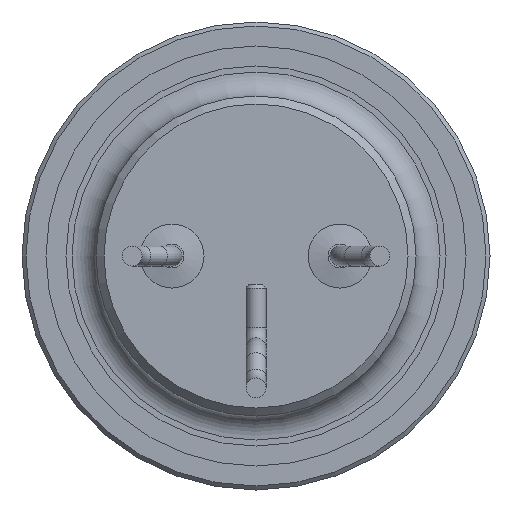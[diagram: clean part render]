
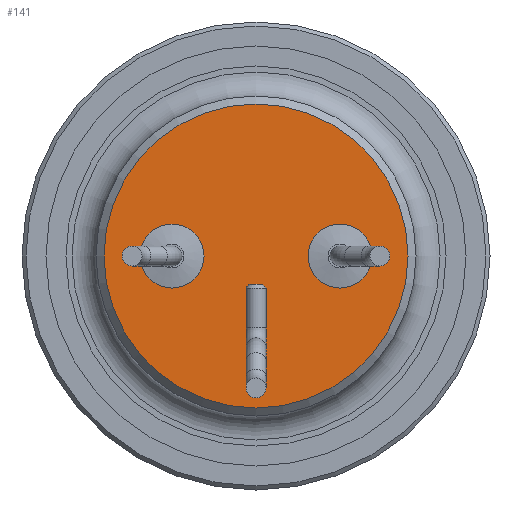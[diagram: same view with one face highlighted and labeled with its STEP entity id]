
A CAD part, front view. The second image highlights one B-rep face of the part: STEP entity #141.
In plain terms, the highlighted planar face has unit normal (0, -1, 0).
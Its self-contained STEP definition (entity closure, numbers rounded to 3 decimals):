
#28 = ORIENTED_EDGE ( 'NONE', *, *, #882, .F. ) ;
#30 = VERTEX_POINT ( 'NONE', #137 ) ;
#32 = CIRCLE ( 'NONE', #1000, 0.8 ) ;
#44 = CARTESIAN_POINT ( 'NONE',  ( -3.8, 0., 0. ) ) ;
#108 = ORIENTED_EDGE ( 'NONE', *, *, #311, .T. ) ;
#110 = CIRCLE ( 'NONE', #473, 3.8 ) ;
#137 = CARTESIAN_POINT ( 'NONE',  ( 2.9, 0., 0. ) ) ;
#141 = ADVANCED_FACE ( 'NONE', ( #1024, #731, #608 ), #188, .F. ) ;
#188 = PLANE ( 'NONE',  #576 ) ;
#240 = DIRECTION ( 'NONE',  ( 0., -1., 0. ) ) ;
#254 = CIRCLE ( 'NONE', #880, 0.8 ) ;
#266 = EDGE_LOOP ( 'NONE', ( #910 ) ) ;
#267 = VERTEX_POINT ( 'NONE', #44 ) ;
#311 = EDGE_CURVE ( 'NONE', #267, #267, #110, .T. ) ;
#343 = EDGE_LOOP ( 'NONE', ( #108 ) ) ;
#418 = DIRECTION ( 'NONE',  ( 0., -1., 0. ) ) ;
#440 = DIRECTION ( 'NONE',  ( 0., -1., 0. ) ) ;
#473 = AXIS2_PLACEMENT_3D ( 'NONE', #1002, #440, #1089 ) ;
#576 = AXIS2_PLACEMENT_3D ( 'NONE', #652, #748, #844 ) ;
#608 = FACE_OUTER_BOUND ( 'NONE', #343, .T. ) ;
#627 = EDGE_LOOP ( 'NONE', ( #28 ) ) ;
#652 = CARTESIAN_POINT ( 'NONE',  ( 4., 0., 0. ) ) ;
#731 = FACE_BOUND ( 'NONE', #627, .T. ) ;
#748 = DIRECTION ( 'NONE',  ( 0., 1., 0. ) ) ;
#790 = CARTESIAN_POINT ( 'NONE',  ( -1.3, 0., 0. ) ) ;
#804 = CARTESIAN_POINT ( 'NONE',  ( -2.1, 0., 0. ) ) ;
#844 = DIRECTION ( 'NONE',  ( -1., 0., 0. ) ) ;
#871 = EDGE_CURVE ( 'NONE', #30, #30, #32, .T. ) ;
#880 = AXIS2_PLACEMENT_3D ( 'NONE', #804, #240, #897 ) ;
#882 = EDGE_CURVE ( 'NONE', #991, #991, #254, .T. ) ;
#897 = DIRECTION ( 'NONE',  ( 1., 0., 0. ) ) ;
#910 = ORIENTED_EDGE ( 'NONE', *, *, #871, .F. ) ;
#977 = CARTESIAN_POINT ( 'NONE',  ( 2.1, 0., 0. ) ) ;
#991 = VERTEX_POINT ( 'NONE', #790 ) ;
#1000 = AXIS2_PLACEMENT_3D ( 'NONE', #977, #418, #1070 ) ;
#1002 = CARTESIAN_POINT ( 'NONE',  ( 0., 0., 0. ) ) ;
#1024 = FACE_BOUND ( 'NONE', #266, .T. ) ;
#1070 = DIRECTION ( 'NONE',  ( 1., 0., 0. ) ) ;
#1089 = DIRECTION ( 'NONE',  ( -1., 0., 0. ) ) ;
